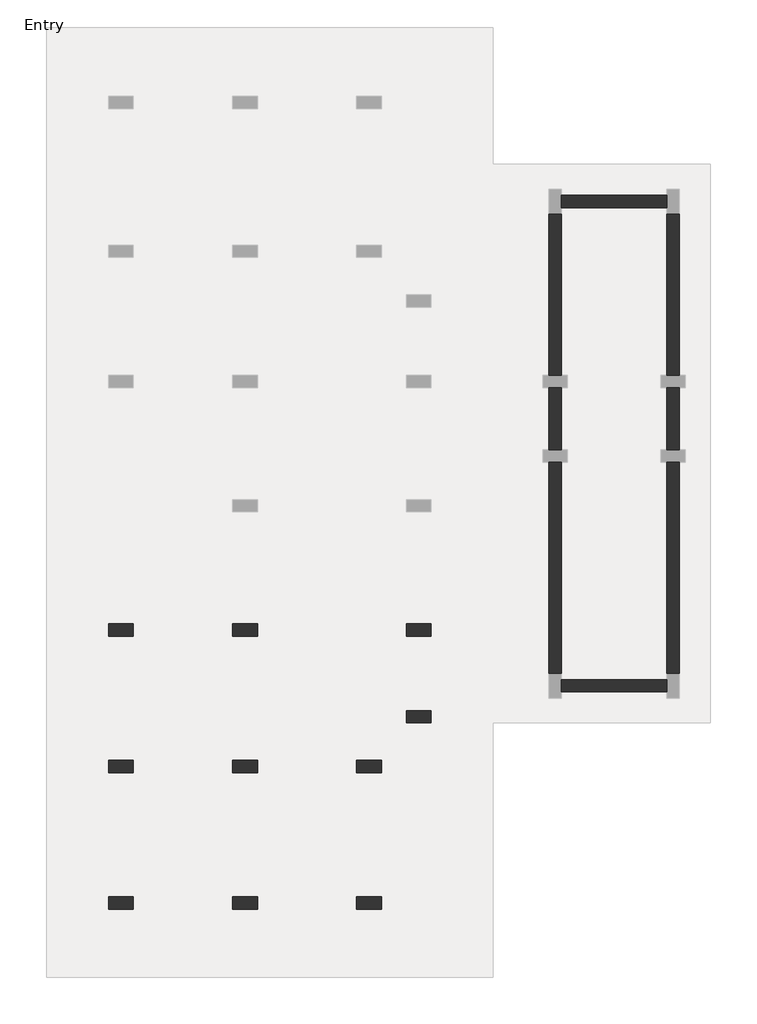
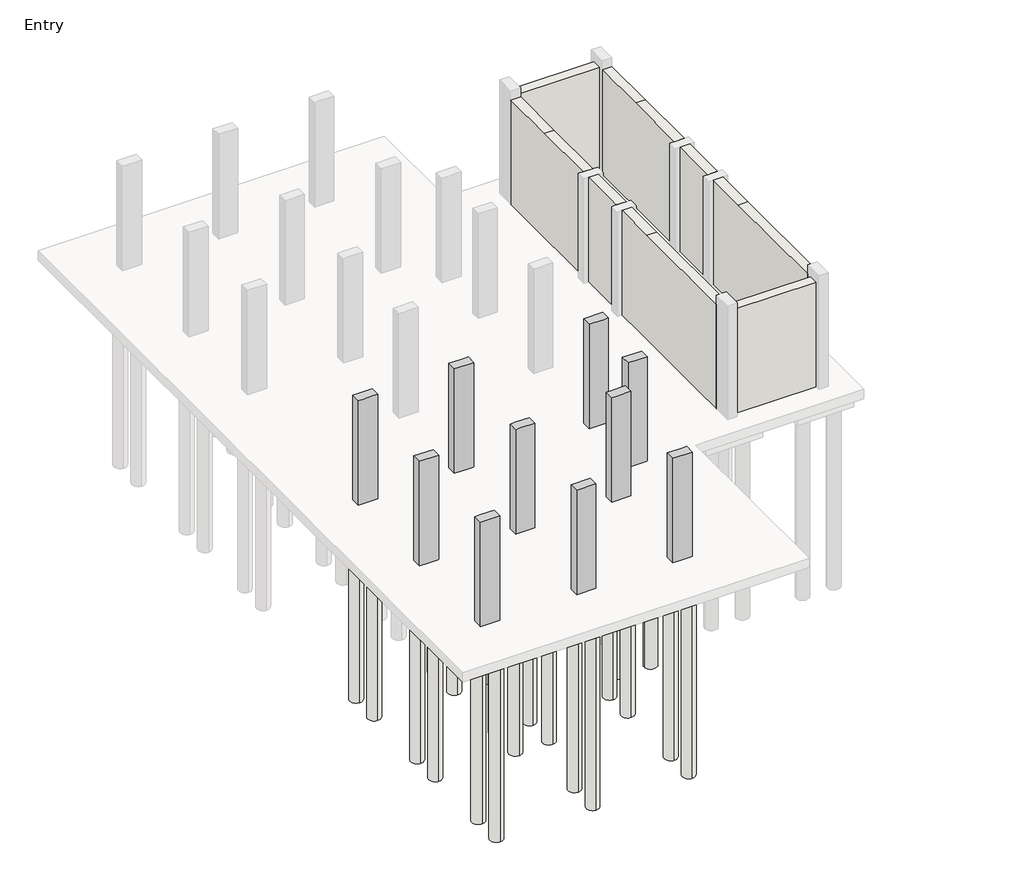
# One storey, part 1 of 3: 30 slabs, 10 columns, 8 walls.
"""IFC4 building model written with IfcOpenShell, lengths in millimetres."""

from ifc_helpers import new_model, si_unit, point, frame, frame_2d, origin, origin_with_axes, place, context, project, spatial, polyline, circle_curve, trimmed, segment, composite_curve, outline, extrude, faceted_brep, element, save

model = new_model("IFC4")

# Units and contexts
model_context = context("Model", 3, world=origin())
ifc_project = project(units=[si_unit("LENGTHUNIT", "METRE", prefix="MILLI")], contexts=[model_context])

# Site, building, storey
site = spatial("IfcSite", under=ifc_project)
building = spatial("IfcBuilding", under=site)
storey = spatial("IfcBuildingStorey", under=building, Name="Entry", Elevation=0.0)

# Columns
placement = place(None, origin())
element("IfcColumn", 1, ObjectType="Concrete-Rectangular-Column : 12 x 24", at=placement, inside=storey, context=model_context, shape_type="Brep", body=[
    faceted_brep([(-15677.5554735, 1692.9867088, 0.0), (-15067.9554735, 1692.9867088, 0.0), (-15067.9554735, 1388.1867088, 0.0), (-15677.5554735, 1388.1867088, 0.0), (-15677.5554735, 1692.9867088, 3505.2), (-15067.9554735, 1692.9867088, 3505.2), (-15067.9554735, 1692.9867088, 2895.6), (-15067.9554735, 1388.1867088, 3505.2), (-15067.9554735, 1388.1867088, 2895.6), (-15220.3554735, 1388.1867088, 3505.2), (-15525.1554735, 1388.1867088, 3505.2), (-15677.5554735, 1388.1867088, 3505.2)], [[[0, 1, 2, 3]], [[4, 5, 6, 1, 0]], [[5, 7, 8, 2, 1, 6]], [[7, 9, 10, 11, 3, 2, 8]], [[11, 4, 0, 3]], [[4, 11, 10, 9, 7, 5]]]),
])
element("IfcColumn", 2, ObjectType="Concrete-Rectangular-Column : 12 x 24", at=placement, inside=storey, context=model_context, shape_type="Brep", body=[
    faceted_brep([(-12629.5554735, 1692.9867088, 0.0), (-12019.9554735, 1692.9867088, 0.0), (-12019.9554735, 1388.1867088, 0.0), (-12629.5554735, 1388.1867088, 0.0), (-12629.5554735, 1692.9867088, 3505.2), (-12477.1554735, 1692.9867088, 3505.2), (-12172.3554735, 1692.9867088, 3505.2), (-12019.9554735, 1692.9867088, 3505.2), (-12019.9554735, 1692.9867088, 2895.6), (-12629.5554735, 1692.9867088, 2895.6), (-12019.9554735, 1388.1867088, 3505.2), (-12019.9554735, 1388.1867088, 2895.6), (-12172.3554735, 1388.1867088, 3505.2), (-12477.1554735, 1388.1867088, 3505.2), (-12629.5554735, 1388.1867088, 3505.2), (-12629.5554735, 1388.1867088, 2895.6)], [[[0, 1, 2, 3]], [[4, 5, 6, 7, 8, 1, 0, 9]], [[7, 10, 11, 2, 1, 8]], [[10, 12, 13, 14, 15, 3, 2, 11]], [[14, 4, 9, 0, 3, 15]], [[4, 14, 13, 12, 10, 7, 6, 5]]]),
])
element("IfcColumn", 3, ObjectType="Concrete-Rectangular-Column : 12 x 24", at=placement, inside=storey, context=model_context, shape_type="Brep", body=[
    faceted_brep([(-8362.3554735, 1692.9867088, 0.0), (-7752.7554735, 1692.9867088, 0.0), (-7752.7554735, 1388.1867088, 0.0), (-8362.3554735, 1388.1867088, 0.0), (-8362.3554735, 1692.9867088, 3505.2), (-8209.9554735, 1692.9867088, 3505.2), (-7905.1554735, 1692.9867088, 3505.2), (-7752.7554735, 1692.9867088, 3505.2), (-8362.3554735, 1692.9867088, 2895.6), (-7752.7554735, 1388.1867088, 3505.2), (-7905.1554735, 1388.1867088, 3505.2), (-8209.9554735, 1388.1867088, 3505.2), (-8362.3554735, 1388.1867088, 3505.2), (-8362.3554735, 1388.1867088, 2895.6)], [[[0, 1, 2, 3]], [[4, 5, 6, 7, 1, 0, 8]], [[7, 9, 2, 1]], [[9, 10, 11, 12, 13, 3, 2]], [[12, 4, 8, 0, 3, 13]], [[4, 12, 11, 10, 9, 7, 6, 5]]]),
])
element("IfcColumn", 4, ObjectType="Concrete-Rectangular-Column : 12 x 24", at=placement, inside=storey, context=model_context, shape_type="Brep", body=[
    faceted_brep([(-8362.3554735, -440.6132912, 0.0), (-7752.7554735, -440.6132912, 0.0), (-7752.7554735, -745.4132912, 0.0), (-8362.3554735, -745.4132912, 0.0), (-8362.3554735, -440.6132912, 3505.2), (-8209.9554735, -440.6132912, 3505.2), (-7905.1554735, -440.6132912, 3505.2), (-7752.7554735, -440.6132912, 3505.2), (-8362.3554735, -440.6132912, 2895.6), (-7752.7554735, -745.4132912, 3505.2), (-8362.3554735, -745.4132912, 3505.2), (-8362.3554735, -745.4132912, 2895.6)], [[[0, 1, 2, 3]], [[4, 5, 6, 7, 1, 0, 8]], [[7, 9, 2, 1]], [[9, 10, 11, 3, 2]], [[10, 4, 8, 0, 3, 11]], [[4, 10, 9, 7, 6, 5]]]),
])
element("IfcColumn", 5, ObjectType="Concrete-Rectangular-Column : 12 x 24", at=placement, inside=storey, context=model_context, shape_type="Brep", body=[
    faceted_brep([(-15677.5554735, -1659.8132912, 0.0), (-15067.9554735, -1659.8132912, 0.0), (-15067.9554735, -1964.6132912, 0.0), (-15677.5554735, -1964.6132912, 0.0), (-15677.5554735, -1659.8132912, 3505.2), (-15525.1554735, -1659.8132912, 3505.2), (-15220.3554735, -1659.8132912, 3505.2), (-15067.9554735, -1659.8132912, 3505.2), (-15067.9554735, -1659.8132912, 2895.6), (-15067.9554735, -1964.6132912, 3505.2), (-15067.9554735, -1964.6132912, 2895.6), (-15220.3554735, -1964.6132912, 3505.2), (-15525.1554735, -1964.6132912, 3505.2), (-15677.5554735, -1964.6132912, 3505.2)], [[[0, 1, 2, 3]], [[4, 5, 6, 7, 8, 1, 0]], [[7, 9, 10, 2, 1, 8]], [[9, 11, 12, 13, 3, 2, 10]], [[13, 4, 0, 3]], [[4, 13, 12, 11, 9, 7, 6, 5]]]),
])
element("IfcColumn", 6, ObjectType="Concrete-Rectangular-Column : 12 x 24", at=placement, inside=storey, context=model_context, shape_type="Brep", body=[
    faceted_brep([(-12629.5554735, -1659.8132912, 0.0), (-12019.9554735, -1659.8132912, 0.0), (-12019.9554735, -1964.6132912, 0.0), (-12629.5554735, -1964.6132912, 0.0), (-12629.5554735, -1659.8132912, 3505.2), (-12477.1554735, -1659.8132912, 3505.2), (-12172.3554735, -1659.8132912, 3505.2), (-12019.9554735, -1659.8132912, 3505.2), (-12019.9554735, -1659.8132912, 2895.6), (-12629.5554735, -1659.8132912, 2895.6), (-12019.9554735, -1964.6132912, 3505.2), (-12019.9554735, -1964.6132912, 2895.6), (-12172.3554735, -1964.6132912, 3505.2), (-12477.1554735, -1964.6132912, 3505.2), (-12629.5554735, -1964.6132912, 3505.2), (-12629.5554735, -1964.6132912, 2895.6)], [[[0, 1, 2, 3]], [[4, 5, 6, 7, 8, 1, 0, 9]], [[7, 10, 11, 2, 1, 8]], [[10, 12, 13, 14, 15, 3, 2, 11]], [[14, 4, 9, 0, 3, 15]], [[4, 14, 13, 12, 10, 7, 6, 5]]]),
])
element("IfcColumn", 7, ObjectType="Concrete-Rectangular-Column : 12 x 24", at=placement, inside=storey, context=model_context, shape_type="Brep", body=[
    faceted_brep([(-9581.5554735, -1659.8132912, 0.0), (-8971.9554735, -1659.8132912, 0.0), (-8971.9554735, -1964.6132912, 0.0), (-9581.5554735, -1964.6132912, 0.0), (-9581.5554735, -1659.8132912, 3505.2), (-9429.1554735, -1659.8132912, 3505.2), (-9124.3554735, -1659.8132912, 3505.2), (-8971.9554735, -1659.8132912, 3505.2), (-9581.5554735, -1659.8132912, 2895.6), (-8971.9554735, -1964.6132912, 3505.2), (-9124.3554735, -1964.6132912, 3505.2), (-9429.1554735, -1964.6132912, 3505.2), (-9581.5554735, -1964.6132912, 3505.2), (-9581.5554735, -1964.6132912, 2895.6)], [[[0, 1, 2, 3]], [[4, 5, 6, 7, 1, 0, 8]], [[7, 9, 2, 1]], [[9, 10, 11, 12, 13, 3, 2]], [[12, 4, 8, 0, 3, 13]], [[4, 12, 11, 10, 9, 7, 6, 5]]]),
])
element("IfcColumn", 8, ObjectType="Concrete-Rectangular-Column : 12 x 24", at=placement, inside=storey, context=model_context, shape_type="Brep", body=[
    faceted_brep([(-15677.5554735, -5012.6132912, 0.0), (-15067.9554735, -5012.6132912, 0.0), (-15067.9554735, -5317.4132912, 0.0), (-15677.5554735, -5317.4132912, 0.0), (-15677.5554735, -5012.6132912, 3505.2), (-15525.1554735, -5012.6132912, 3505.2), (-15220.3554735, -5012.6132912, 3505.2), (-15067.9554735, -5012.6132912, 3505.2), (-15067.9554735, -5012.6132912, 2895.6), (-15067.9554735, -5317.4132912, 3505.2), (-15067.9554735, -5317.4132912, 2895.6), (-15677.5554735, -5317.4132912, 3505.2)], [[[0, 1, 2, 3]], [[4, 5, 6, 7, 8, 1, 0]], [[7, 9, 10, 2, 1, 8]], [[9, 11, 3, 2, 10]], [[11, 4, 0, 3]], [[4, 11, 9, 7, 6, 5]]]),
])
element("IfcColumn", 9, ObjectType="Concrete-Rectangular-Column : 12 x 24", at=placement, inside=storey, context=model_context, shape_type="Brep", body=[
    faceted_brep([(-12629.5554735, -5012.6132912, 0.0), (-12019.9554735, -5012.6132912, 0.0), (-12019.9554735, -5317.4132912, 0.0), (-12629.5554735, -5317.4132912, 0.0), (-12629.5554735, -5012.6132912, 3505.2), (-12477.1554735, -5012.6132912, 3505.2), (-12172.3554735, -5012.6132912, 3505.2), (-12019.9554735, -5012.6132912, 3505.2), (-12019.9554735, -5012.6132912, 2895.6), (-12629.5554735, -5012.6132912, 2895.6), (-12019.9554735, -5317.4132912, 3505.2), (-12019.9554735, -5317.4132912, 2895.6), (-12629.5554735, -5317.4132912, 3505.2), (-12629.5554735, -5317.4132912, 2895.6)], [[[0, 1, 2, 3]], [[4, 5, 6, 7, 8, 1, 0, 9]], [[7, 10, 11, 2, 1, 8]], [[10, 12, 13, 3, 2, 11]], [[12, 4, 9, 0, 3, 13]], [[4, 12, 10, 7, 6, 5]]]),
])
element("IfcColumn", 10, ObjectType="Concrete-Rectangular-Column : 12 x 24", at=placement, inside=storey, context=model_context, shape_type="Brep", body=[
    faceted_brep([(-9581.5554735, -5012.6132912, 0.0), (-8971.9554735, -5012.6132912, 0.0), (-8971.9554735, -5317.4132912, 0.0), (-9581.5554735, -5317.4132912, 0.0), (-9581.5554735, -5012.6132912, 3505.2), (-9429.1554735, -5012.6132912, 3505.2), (-9124.3554735, -5012.6132912, 3505.2), (-8971.9554735, -5012.6132912, 3505.2), (-9581.5554735, -5012.6132912, 2895.6), (-8971.9554735, -5317.4132912, 3505.2), (-9581.5554735, -5317.4132912, 3505.2), (-9581.5554735, -5317.4132912, 2895.6)], [[[0, 1, 2, 3]], [[4, 5, 6, 7, 1, 0, 8]], [[7, 9, 2, 1]], [[9, 10, 11, 3, 2]], [[10, 4, 8, 0, 3, 11]], [[4, 10, 9, 7, 6, 5]]]),
])

# Slabs
element("IfcSlab", 11, ObjectType="Pile Cap-2 Pile : 31\"x61\"x35\"", at=placement, inside=storey, context=model_context, shape_type="SweptSolid", body=[
    extrude(outline(polyline([(-15779.1554735, 2442.2867088), (-14966.3554735, 2442.2867088), (-14966.3554735, 638.8867088), (-15779.1554735, 638.8867088), (-15779.1554735, 2442.2867088)])), frame((0.0, 0.0, -889.0), z_axis=(0.0, 0.0, 1.0), x_axis=(1.0, 0.0, 0.0)), (0.0, 0.0, 1.0), 584.2),
])
element("IfcSlab", 12, ObjectType="Pile Cap-2 Pile : 31\"x61\"x35\"", at=placement, inside=storey, context=model_context, shape_type="SweptSolid", body=[
    extrude(outline(polyline([(-15779.1554735, -910.5132912), (-14966.3554735, -910.5132912), (-14966.3554735, -2713.9132912), (-15779.1554735, -2713.9132912), (-15779.1554735, -910.5132912)])), frame((0.0, 0.0, -889.0), z_axis=(0.0, 0.0, 1.0), x_axis=(1.0, 0.0, 0.0)), (0.0, 0.0, 1.0), 584.2),
])
element("IfcSlab", 13, ObjectType="Pile Cap-2 Pile : 31\"x61\"x35\"", at=placement, inside=storey, context=model_context, shape_type="SweptSolid", body=[
    extrude(outline(polyline([(-15779.1554735, -4263.3132912), (-14966.3554735, -4263.3132912), (-14966.3554735, -6066.7132912), (-15779.1554735, -6066.7132912), (-15779.1554735, -4263.3132912)])), frame((0.0, 0.0, -889.0), z_axis=(0.0, 0.0, 1.0), x_axis=(1.0, 0.0, 0.0)), (0.0, 0.0, 1.0), 584.2),
])
element("IfcSlab", 14, ObjectType="Pile Cap-2 Pile : 31\"x61\"x35\"", at=placement, inside=storey, context=model_context, shape_type="SweptSolid", body=[
    extrude(outline(polyline([(-12731.1554735, -4263.3132912), (-11918.3554735, -4263.3132912), (-11918.3554735, -6066.7132912), (-12731.1554735, -6066.7132912), (-12731.1554735, -4263.3132912)])), frame((0.0, 0.0, -889.0), z_axis=(0.0, 0.0, 1.0), x_axis=(1.0, 0.0, 0.0)), (0.0, 0.0, 1.0), 584.2),
])
element("IfcSlab", 15, ObjectType="Pile Cap-2 Pile : 31\"x61\"x35\"", at=placement, inside=storey, context=model_context, shape_type="SweptSolid", body=[
    extrude(outline(polyline([(-9683.1554735, -4263.3132912), (-8870.3554735, -4263.3132912), (-8870.3554735, -6066.7132912), (-9683.1554735, -6066.7132912), (-9683.1554735, -4263.3132912)])), frame((0.0, 0.0, -889.0), z_axis=(0.0, 0.0, 1.0), x_axis=(1.0, 0.0, 0.0)), (0.0, 0.0, 1.0), 584.2),
])
element("IfcSlab", 16, ObjectType="Pile Cap-2 Pile : 31\"x61\"x35\"", at=placement, inside=storey, context=model_context, shape_type="Brep", body=[
    faceted_brep([(-9683.1554735, -910.5132912, -889.0), (-8959.2554735, -910.5132912, -889.0), (-8870.3554735, -910.5132912, -889.0), (-8870.3554735, -999.4132912, -889.0), (-8870.3554735, -2713.9132912, -889.0), (-9683.1554735, -2713.9132912, -889.0), (-9683.1554735, -2713.9132912, -304.8), (-9683.1554735, -910.5132912, -304.8), (-8870.3554735, -2713.9132912, -304.8), (-8870.3554735, -910.5132912, -304.8), (-8870.3554735, -999.4132912, -304.8), (-8959.2554735, -910.5132912, -304.8)], [[[0, 1, 2, 3, 4, 5]], [[0, 5, 6, 7]], [[5, 4, 8, 6]], [[4, 3, 2, 9, 10, 8]], [[2, 1, 0, 7, 11, 9]], [[7, 6, 8, 10, 9, 11]]]),
])
element("IfcSlab", 17, ObjectType="Pile Cap-2 Pile : 31\"x61\"x35\"", at=placement, inside=storey, context=model_context, shape_type="SweptSolid", body=[
    extrude(outline(polyline([(-7155.8554735, -186.6132912), (-7155.8554735, -999.4132912), (-8870.3554735, -999.4132912), (-8870.3554735, -910.5132912), (-8959.2554735, -910.5132912), (-8959.2554735, -186.6132912), (-7155.8554735, -186.6132912)])), frame((0.0, 0.0, -889.0), z_axis=(0.0, 0.0, 1.0), x_axis=(1.0, 0.0, 0.0)), (0.0, 0.0, 1.0), 584.2),
])
element("IfcSlab", 18, ObjectType="Pile Cap-4 Pile : 72\"x72\"x35\"", at=placement, inside=storey, context=model_context, shape_type="SweptSolid", body=[
    extrude(outline(polyline([(-13239.1554735, 2454.9867088), (-11410.3554735, 2454.9867088), (-11410.3554735, 626.1867088), (-13239.1554735, 626.1867088), (-13239.1554735, 2454.9867088)])), frame((0.0, 0.0, -889.0), z_axis=(0.0, 0.0, 1.0), x_axis=(1.0, 0.0, 0.0)), (0.0, 0.0, 1.0), 584.2),
])
element("IfcSlab", 19, ObjectType="Pile Cap-4 Pile : 72\"x72\"x35\"", at=placement, inside=storey, context=model_context, shape_type="SweptSolid", body=[
    extrude(outline(polyline([(-13239.1554735, -897.8132912), (-11410.3554735, -897.8132912), (-11410.3554735, -2726.6132912), (-13239.1554735, -2726.6132912), (-13239.1554735, -897.8132912)])), frame((0.0, 0.0, -889.0), z_axis=(0.0, 0.0, 1.0), x_axis=(1.0, 0.0, 0.0)), (0.0, 0.0, 1.0), 584.2),
])
element("IfcSlab", 20, ObjectType="Pile-Steel Pipe : 16\" Diameter", at=placement, inside=storey, context=model_context, shape_type="SweptSolid", body=[
    extrude(outline(composite_curve([segment(trimmed(circle_curve(frame_2d((-12858.1554735, 1007.1867088)), 203.2), [point((-12858.1554735, 803.9867088))], [point((-12858.1554735, 1210.3867088))], False, "CARTESIAN"), True, "CONTINUOUS"), segment(trimmed(circle_curve(frame_2d((-12858.1554735, 1007.1867088)), 203.2), [point((-12858.1554735, 1210.3867088))], [point((-12858.1554735, 803.9867088))], False, "CARTESIAN"), True, "CONTINUOUS")], self_intersect=False)), frame((0.0, 0.0, -6985.0), z_axis=(0.0, 0.0, 1.0), x_axis=(1.0, 0.0, 0.0)), (0.0, 0.0, 1.0), 6096.0),
])
element("IfcSlab", 21, ObjectType="Pile-Steel Pipe : 16\" Diameter", at=placement, inside=storey, context=model_context, shape_type="SweptSolid", body=[
    extrude(outline(composite_curve([segment(trimmed(circle_curve(frame_2d((-11791.3554735, 1007.1867088)), 203.2), [point((-11791.3554735, 803.9867088))], [point((-11791.3554735, 1210.3867088))], False, "CARTESIAN"), True, "CONTINUOUS"), segment(trimmed(circle_curve(frame_2d((-11791.3554735, 1007.1867088)), 203.2), [point((-11791.3554735, 1210.3867088))], [point((-11791.3554735, 803.9867088))], False, "CARTESIAN"), True, "CONTINUOUS")], self_intersect=False)), frame((0.0, 0.0, -6985.0), z_axis=(0.0, 0.0, 1.0), x_axis=(1.0, 0.0, 0.0)), (0.0, 0.0, 1.0), 6096.0),
])
element("IfcSlab", 22, ObjectType="Pile-Steel Pipe : 16\" Diameter", at=placement, inside=storey, context=model_context, shape_type="SweptSolid", body=[
    extrude(outline(composite_curve([segment(trimmed(circle_curve(frame_2d((-12858.1554735, 2073.9867088)), 203.2), [point((-12858.1554735, 1870.7867088))], [point((-12858.1554735, 2277.1867088))], False, "CARTESIAN"), True, "CONTINUOUS"), segment(trimmed(circle_curve(frame_2d((-12858.1554735, 2073.9867088)), 203.2), [point((-12858.1554735, 2277.1867088))], [point((-12858.1554735, 1870.7867088))], False, "CARTESIAN"), True, "CONTINUOUS")], self_intersect=False)), frame((0.0, 0.0, -6985.0), z_axis=(0.0, 0.0, 1.0), x_axis=(1.0, 0.0, 0.0)), (0.0, 0.0, 1.0), 6096.0),
])
element("IfcSlab", 23, ObjectType="Pile-Steel Pipe : 16\" Diameter", at=placement, inside=storey, context=model_context, shape_type="SweptSolid", body=[
    extrude(outline(composite_curve([segment(trimmed(circle_curve(frame_2d((-12858.1554735, -2345.6132912)), 203.2), [point((-12858.1554735, -2548.8132912))], [point((-12858.1554735, -2142.4132912))], False, "CARTESIAN"), True, "CONTINUOUS"), segment(trimmed(circle_curve(frame_2d((-12858.1554735, -2345.6132912)), 203.2), [point((-12858.1554735, -2142.4132912))], [point((-12858.1554735, -2548.8132912))], False, "CARTESIAN"), True, "CONTINUOUS")], self_intersect=False)), frame((0.0, 0.0, -6985.0), z_axis=(0.0, 0.0, 1.0), x_axis=(1.0, 0.0, 0.0)), (0.0, 0.0, 1.0), 6096.0),
])
element("IfcSlab", 24, ObjectType="Pile-Steel Pipe : 16\" Diameter", at=placement, inside=storey, context=model_context, shape_type="SweptSolid", body=[
    extrude(outline(composite_curve([segment(trimmed(circle_curve(frame_2d((-11791.3554735, -2345.6132912)), 203.2), [point((-11791.3554735, -2548.8132912))], [point((-11791.3554735, -2142.4132912))], False, "CARTESIAN"), True, "CONTINUOUS"), segment(trimmed(circle_curve(frame_2d((-11791.3554735, -2345.6132912)), 203.2), [point((-11791.3554735, -2142.4132912))], [point((-11791.3554735, -2548.8132912))], False, "CARTESIAN"), True, "CONTINUOUS")], self_intersect=False)), frame((0.0, 0.0, -6985.0), z_axis=(0.0, 0.0, 1.0), x_axis=(1.0, 0.0, 0.0)), (0.0, 0.0, 1.0), 6096.0),
])
element("IfcSlab", 25, ObjectType="Pile-Steel Pipe : 16\" Diameter", at=placement, inside=storey, context=model_context, shape_type="SweptSolid", body=[
    extrude(outline(composite_curve([segment(trimmed(circle_curve(frame_2d((-11791.3554735, -1278.8132912)), 203.2), [point((-11791.3554735, -1482.0132912))], [point((-11791.3554735, -1075.6132912))], False, "CARTESIAN"), True, "CONTINUOUS"), segment(trimmed(circle_curve(frame_2d((-11791.3554735, -1278.8132912)), 203.2), [point((-11791.3554735, -1075.6132912))], [point((-11791.3554735, -1482.0132912))], False, "CARTESIAN"), True, "CONTINUOUS")], self_intersect=False)), frame((0.0, 0.0, -6985.0), z_axis=(0.0, 0.0, 1.0), x_axis=(1.0, 0.0, 0.0)), (0.0, 0.0, 1.0), 6096.0),
])
element("IfcSlab", 26, ObjectType="Pile-Steel Pipe : 16\" Diameter", at=placement, inside=storey, context=model_context, shape_type="SweptSolid", body=[
    extrude(outline(composite_curve([segment(trimmed(circle_curve(frame_2d((-12858.1554735, -1278.8132912)), 203.2), [point((-12858.1554735, -1482.0132912))], [point((-12858.1554735, -1075.6132912))], False, "CARTESIAN"), True, "CONTINUOUS"), segment(trimmed(circle_curve(frame_2d((-12858.1554735, -1278.8132912)), 203.2), [point((-12858.1554735, -1075.6132912))], [point((-12858.1554735, -1482.0132912))], False, "CARTESIAN"), True, "CONTINUOUS")], self_intersect=False)), frame((0.0, 0.0, -6985.0), z_axis=(0.0, 0.0, 1.0), x_axis=(1.0, 0.0, 0.0)), (0.0, 0.0, 1.0), 6096.0),
])
element("IfcSlab", 27, ObjectType="Pile-Steel Pipe : 16\" Diameter", at=placement, inside=storey, context=model_context, shape_type="SweptSolid", body=[
    extrude(outline(composite_curve([segment(trimmed(circle_curve(frame_2d((-15372.7554735, 2035.8867088)), 203.2), [point((-15372.7554735, 1832.6867088))], [point((-15372.7554735, 2239.0867088))], False, "CARTESIAN"), True, "CONTINUOUS"), segment(trimmed(circle_curve(frame_2d((-15372.7554735, 2035.8867088)), 203.2), [point((-15372.7554735, 2239.0867088))], [point((-15372.7554735, 1832.6867088))], False, "CARTESIAN"), True, "CONTINUOUS")], self_intersect=False)), frame((0.0, 0.0, -6985.0), z_axis=(0.0, 0.0, 1.0), x_axis=(1.0, 0.0, 0.0)), (0.0, 0.0, 1.0), 6096.0),
])
element("IfcSlab", 28, ObjectType="Pile-Steel Pipe : 16\" Diameter", at=placement, inside=storey, context=model_context, shape_type="SweptSolid", body=[
    extrude(outline(composite_curve([segment(trimmed(circle_curve(frame_2d((-15372.7554735, 1045.2867088)), 203.2), [point((-15372.7554735, 842.0867088))], [point((-15372.7554735, 1248.4867088))], False, "CARTESIAN"), True, "CONTINUOUS"), segment(trimmed(circle_curve(frame_2d((-15372.7554735, 1045.2867088)), 203.2), [point((-15372.7554735, 1248.4867088))], [point((-15372.7554735, 842.0867088))], False, "CARTESIAN"), True, "CONTINUOUS")], self_intersect=False)), frame((0.0, 0.0, -6985.0), z_axis=(0.0, 0.0, 1.0), x_axis=(1.0, 0.0, 0.0)), (0.0, 0.0, 1.0), 6096.0),
])
element("IfcSlab", 29, ObjectType="Pile-Steel Pipe : 16\" Diameter", at=placement, inside=storey, context=model_context, shape_type="SweptSolid", body=[
    extrude(outline(composite_curve([segment(trimmed(circle_curve(frame_2d((-15372.7554735, -1316.9132912)), 203.2), [point((-15372.7554735, -1520.1132912))], [point((-15372.7554735, -1113.7132912))], False, "CARTESIAN"), True, "CONTINUOUS"), segment(trimmed(circle_curve(frame_2d((-15372.7554735, -1316.9132912)), 203.2), [point((-15372.7554735, -1113.7132912))], [point((-15372.7554735, -1520.1132912))], False, "CARTESIAN"), True, "CONTINUOUS")], self_intersect=False)), frame((0.0, 0.0, -6985.0), z_axis=(0.0, 0.0, 1.0), x_axis=(1.0, 0.0, 0.0)), (0.0, 0.0, 1.0), 6096.0),
])
element("IfcSlab", 30, ObjectType="Pile-Steel Pipe : 16\" Diameter", at=placement, inside=storey, context=model_context, shape_type="SweptSolid", body=[
    extrude(outline(composite_curve([segment(trimmed(circle_curve(frame_2d((-15372.7554735, -2307.5132912)), 203.2), [point((-15372.7554735, -2510.7132912))], [point((-15372.7554735, -2104.3132912))], False, "CARTESIAN"), True, "CONTINUOUS"), segment(trimmed(circle_curve(frame_2d((-15372.7554735, -2307.5132912)), 203.2), [point((-15372.7554735, -2104.3132912))], [point((-15372.7554735, -2510.7132912))], False, "CARTESIAN"), True, "CONTINUOUS")], self_intersect=False)), frame((0.0, 0.0, -6985.0), z_axis=(0.0, 0.0, 1.0), x_axis=(1.0, 0.0, 0.0)), (0.0, 0.0, 1.0), 6096.0),
])
element("IfcSlab", 31, ObjectType="Pile-Steel Pipe : 16\" Diameter", at=placement, inside=storey, context=model_context, shape_type="SweptSolid", body=[
    extrude(outline(composite_curve([segment(trimmed(circle_curve(frame_2d((-15372.7554735, -4669.7132912)), 203.2), [point((-15372.7554735, -4872.9132912))], [point((-15372.7554735, -4466.5132912))], False, "CARTESIAN"), True, "CONTINUOUS"), segment(trimmed(circle_curve(frame_2d((-15372.7554735, -4669.7132912)), 203.2), [point((-15372.7554735, -4466.5132912))], [point((-15372.7554735, -4872.9132912))], False, "CARTESIAN"), True, "CONTINUOUS")], self_intersect=False)), frame((0.0, 0.0, -6985.0), z_axis=(0.0, 0.0, 1.0), x_axis=(1.0, 0.0, 0.0)), (0.0, 0.0, 1.0), 6096.0),
])
element("IfcSlab", 32, ObjectType="Pile-Steel Pipe : 16\" Diameter", at=placement, inside=storey, context=model_context, shape_type="SweptSolid", body=[
    extrude(outline(composite_curve([segment(trimmed(circle_curve(frame_2d((-15372.7554735, -5660.3132912)), 203.2), [point((-15372.7554735, -5863.5132912))], [point((-15372.7554735, -5457.1132912))], False, "CARTESIAN"), True, "CONTINUOUS"), segment(trimmed(circle_curve(frame_2d((-15372.7554735, -5660.3132912)), 203.2), [point((-15372.7554735, -5457.1132912))], [point((-15372.7554735, -5863.5132912))], False, "CARTESIAN"), True, "CONTINUOUS")], self_intersect=False)), frame((0.0, 0.0, -6985.0), z_axis=(0.0, 0.0, 1.0), x_axis=(1.0, 0.0, 0.0)), (0.0, 0.0, 1.0), 6096.0),
])
element("IfcSlab", 33, ObjectType="Pile-Steel Pipe : 16\" Diameter", at=placement, inside=storey, context=model_context, shape_type="SweptSolid", body=[
    extrude(outline(composite_curve([segment(trimmed(circle_curve(frame_2d((-12324.7554735, -4669.7132912)), 203.2), [point((-12324.7554735, -4872.9132912))], [point((-12324.7554735, -4466.5132912))], False, "CARTESIAN"), True, "CONTINUOUS"), segment(trimmed(circle_curve(frame_2d((-12324.7554735, -4669.7132912)), 203.2), [point((-12324.7554735, -4466.5132912))], [point((-12324.7554735, -4872.9132912))], False, "CARTESIAN"), True, "CONTINUOUS")], self_intersect=False)), frame((0.0, 0.0, -6985.0), z_axis=(0.0, 0.0, 1.0), x_axis=(1.0, 0.0, 0.0)), (0.0, 0.0, 1.0), 6096.0),
])
element("IfcSlab", 34, ObjectType="Pile-Steel Pipe : 16\" Diameter", at=placement, inside=storey, context=model_context, shape_type="SweptSolid", body=[
    extrude(outline(composite_curve([segment(trimmed(circle_curve(frame_2d((-12324.7554735, -5660.3132912)), 203.2), [point((-12324.7554735, -5863.5132912))], [point((-12324.7554735, -5457.1132912))], False, "CARTESIAN"), True, "CONTINUOUS"), segment(trimmed(circle_curve(frame_2d((-12324.7554735, -5660.3132912)), 203.2), [point((-12324.7554735, -5457.1132912))], [point((-12324.7554735, -5863.5132912))], False, "CARTESIAN"), True, "CONTINUOUS")], self_intersect=False)), frame((0.0, 0.0, -6985.0), z_axis=(0.0, 0.0, 1.0), x_axis=(1.0, 0.0, 0.0)), (0.0, 0.0, 1.0), 6096.0),
])
element("IfcSlab", 35, ObjectType="Pile-Steel Pipe : 16\" Diameter", at=placement, inside=storey, context=model_context, shape_type="SweptSolid", body=[
    extrude(outline(composite_curve([segment(trimmed(circle_curve(frame_2d((-9276.7554735, -4669.7132912)), 203.2), [point((-9276.7554735, -4872.9132912))], [point((-9276.7554735, -4466.5132912))], False, "CARTESIAN"), True, "CONTINUOUS"), segment(trimmed(circle_curve(frame_2d((-9276.7554735, -4669.7132912)), 203.2), [point((-9276.7554735, -4466.5132912))], [point((-9276.7554735, -4872.9132912))], False, "CARTESIAN"), True, "CONTINUOUS")], self_intersect=False)), frame((0.0, 0.0, -6985.0), z_axis=(0.0, 0.0, 1.0), x_axis=(1.0, 0.0, 0.0)), (0.0, 0.0, 1.0), 6096.0),
])
element("IfcSlab", 36, ObjectType="Pile-Steel Pipe : 16\" Diameter", at=placement, inside=storey, context=model_context, shape_type="SweptSolid", body=[
    extrude(outline(composite_curve([segment(trimmed(circle_curve(frame_2d((-9276.7554735, -5660.3132912)), 203.2), [point((-9276.7554735, -5863.5132912))], [point((-9276.7554735, -5457.1132912))], False, "CARTESIAN"), True, "CONTINUOUS"), segment(trimmed(circle_curve(frame_2d((-9276.7554735, -5660.3132912)), 203.2), [point((-9276.7554735, -5457.1132912))], [point((-9276.7554735, -5863.5132912))], False, "CARTESIAN"), True, "CONTINUOUS")], self_intersect=False)), frame((0.0, 0.0, -6985.0), z_axis=(0.0, 0.0, 1.0), x_axis=(1.0, 0.0, 0.0)), (0.0, 0.0, 1.0), 6096.0),
])
element("IfcSlab", 37, ObjectType="Pile-Steel Pipe : 16\" Diameter", at=placement, inside=storey, context=model_context, shape_type="SweptSolid", body=[
    extrude(outline(composite_curve([segment(trimmed(circle_curve(frame_2d((-9276.7554735, -1316.9132912)), 203.2), [point((-9276.7554735, -1520.1132912))], [point((-9276.7554735, -1113.7132912))], False, "CARTESIAN"), True, "CONTINUOUS"), segment(trimmed(circle_curve(frame_2d((-9276.7554735, -1316.9132912)), 203.2), [point((-9276.7554735, -1113.7132912))], [point((-9276.7554735, -1520.1132912))], False, "CARTESIAN"), True, "CONTINUOUS")], self_intersect=False)), frame((0.0, 0.0, -6985.0), z_axis=(0.0, 0.0, 1.0), x_axis=(1.0, 0.0, 0.0)), (0.0, 0.0, 1.0), 6096.0),
])
element("IfcSlab", 38, ObjectType="Pile-Steel Pipe : 16\" Diameter", at=placement, inside=storey, context=model_context, shape_type="SweptSolid", body=[
    extrude(outline(composite_curve([segment(trimmed(circle_curve(frame_2d((-9276.7554735, -2307.5132912)), 203.2), [point((-9276.7554735, -2510.7132912))], [point((-9276.7554735, -2104.3132912))], False, "CARTESIAN"), True, "CONTINUOUS"), segment(trimmed(circle_curve(frame_2d((-9276.7554735, -2307.5132912)), 203.2), [point((-9276.7554735, -2104.3132912))], [point((-9276.7554735, -2510.7132912))], False, "CARTESIAN"), True, "CONTINUOUS")], self_intersect=False)), frame((0.0, 0.0, -6985.0), z_axis=(0.0, 0.0, 1.0), x_axis=(1.0, 0.0, 0.0)), (0.0, 0.0, 1.0), 6096.0),
])
element("IfcSlab", 39, ObjectType="Pile-Steel Pipe : 16\" Diameter", at=placement, inside=storey, context=model_context, shape_type="SweptSolid", body=[
    extrude(outline(composite_curve([segment(trimmed(circle_curve(frame_2d((-7562.2554735, -593.0132912)), 203.2), [point((-7765.4554735, -593.0132912))], [point((-7359.0554735, -593.0132912))], False, "CARTESIAN"), True, "CONTINUOUS"), segment(trimmed(circle_curve(frame_2d((-7562.2554735, -593.0132912)), 203.2), [point((-7359.0554735, -593.0132912))], [point((-7765.4554735, -593.0132912))], False, "CARTESIAN"), True, "CONTINUOUS")], self_intersect=False)), frame((0.0, 0.0, -6985.0), z_axis=(0.0, 0.0, 1.0), x_axis=(1.0, 0.0, 0.0)), (0.0, 0.0, 1.0), 6096.0),
])
element("IfcSlab", 40, ObjectType="Pile-Steel Pipe : 16\" Diameter", at=placement, inside=storey, context=model_context, shape_type="SweptSolid", body=[
    extrude(outline(composite_curve([segment(trimmed(circle_curve(frame_2d((-8552.8554735, -593.0132912)), 203.2), [point((-8756.0554735, -593.0132912))], [point((-8349.6554735, -593.0132912))], False, "CARTESIAN"), True, "CONTINUOUS"), segment(trimmed(circle_curve(frame_2d((-8552.8554735, -593.0132912)), 203.2), [point((-8349.6554735, -593.0132912))], [point((-8756.0554735, -593.0132912))], False, "CARTESIAN"), True, "CONTINUOUS")], self_intersect=False)), frame((0.0, 0.0, -6985.0), z_axis=(0.0, 0.0, 1.0), x_axis=(1.0, 0.0, 0.0)), (0.0, 0.0, 1.0), 6096.0),
])

# Walls
element("IfcWall", 41, ObjectType="Core Shaft - 12\" Concrete", at=placement, inside=storey, context=model_context, shape_type="SweptSolid", body=[
    extrude(outline(polyline([(-1961.5554735, 11903.7867088), (-4552.3554735, 11903.7867088), (-4552.3554735, 12208.5867088), (-1961.5554735, 12208.5867088), (-1961.5554735, 11903.7867088)])), origin_with_axes(), (0.0, 0.0, 1.0), 3505.2),
])
element("IfcWall", 42, ObjectType="Core Shaft - 12\" Concrete", at=placement, inside=storey, context=model_context, shape_type="SweptSolid", body=[
    extrude(outline(polyline([(11751.3867088, 0.0), (7788.9867088, 0.0), (7788.9867088, 3505.2), (9922.5867088, 3505.2), (11751.3867088, 3505.2), (11751.3867088, 0.0)])), frame((-1961.5554735, 0.0, 0.0), z_axis=(1.0, 0.0, 0.0), x_axis=(0.0, 1.0, 0.0)), (0.0, 0.0, 1.0), 304.8),
])
element("IfcWall", 43, ObjectType="Core Shaft - 12\" Concrete", at=placement, inside=storey, context=model_context, shape_type="SweptSolid", body=[
    extrude(outline(polyline([(-1961.5554735, 5960.1867088), (-1961.5554735, 7484.1867088), (-1656.7554735, 7484.1867088), (-1656.7554735, 5960.1867088), (-1961.5554735, 5960.1867088)])), origin_with_axes(), (0.0, 0.0, 1.0), 3505.2),
])
element("IfcWall", 44, ObjectType="Core Shaft - 12\" Concrete", at=placement, inside=storey, context=model_context, shape_type="SweptSolid", body=[
    extrude(outline(polyline([(5655.3867088, 0.0), (473.7867088, 0.0), (473.7867088, 3505.2), (4283.7867088, 3505.2), (5655.3867088, 3505.2), (5655.3867088, 0.0)])), frame((-1961.5554735, 0.0, 0.0), z_axis=(1.0, 0.0, 0.0), x_axis=(0.0, 1.0, 0.0)), (0.0, 0.0, 1.0), 304.8),
])
element("IfcWall", 45, ObjectType="Core Shaft - 12\" Concrete", at=placement, inside=storey, context=model_context, shape_type="SweptSolid", body=[
    extrude(outline(polyline([(-4552.3554735, 321.3867088), (-1961.5554735, 321.3867088), (-1961.5554735, 16.5867088), (-4552.3554735, 16.5867088), (-4552.3554735, 321.3867088)])), origin_with_axes(), (0.0, 0.0, 1.0), 3505.2),
])
element("IfcWall", 46, ObjectType="Core Shaft - 12\" Concrete", at=placement, inside=storey, context=model_context, shape_type="SweptSolid", body=[
    extrude(outline(polyline([(473.7867088, 0.0), (473.7867088, 3505.2), (4283.7867088, 3505.2), (5655.3867088, 3505.2), (5655.3867088, 0.0), (473.7867088, 0.0)])), frame((-4857.1554735, 0.0, 0.0), z_axis=(1.0, 0.0, 0.0), x_axis=(0.0, 1.0, 0.0)), (0.0, 0.0, 1.0), 304.8),
])
element("IfcWall", 47, ObjectType="Core Shaft - 12\" Concrete", at=placement, inside=storey, context=model_context, shape_type="SweptSolid", body=[
    extrude(outline(polyline([(-4552.3554735, 7484.1867088), (-4552.3554735, 5960.1867088), (-4857.1554735, 5960.1867088), (-4857.1554735, 7484.1867088), (-4552.3554735, 7484.1867088)])), origin_with_axes(), (0.0, 0.0, 1.0), 3505.2),
])
element("IfcWall", 48, ObjectType="Core Shaft - 12\" Concrete", at=placement, inside=storey, context=model_context, shape_type="SweptSolid", body=[
    extrude(outline(polyline([(7788.9867088, 0.0), (7788.9867088, 3505.2), (9922.5867088, 3505.2), (11751.3867088, 3505.2), (11751.3867088, 0.0), (7788.9867088, 0.0)])), frame((-4857.1554735, 0.0, 0.0), z_axis=(1.0, 0.0, 0.0), x_axis=(0.0, 1.0, 0.0)), (0.0, 0.0, 1.0), 304.8),
])

save(model, "model.ifc")
